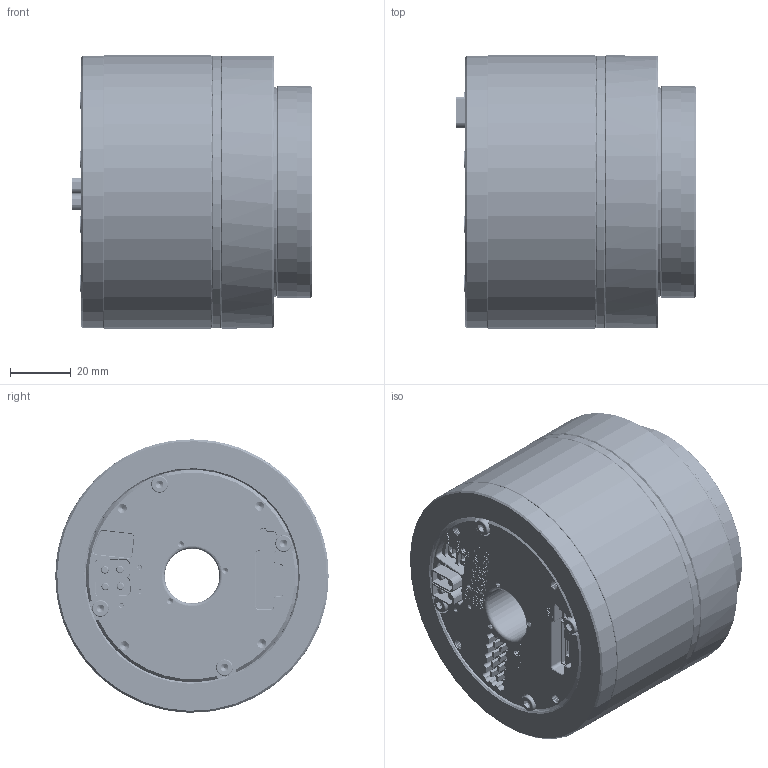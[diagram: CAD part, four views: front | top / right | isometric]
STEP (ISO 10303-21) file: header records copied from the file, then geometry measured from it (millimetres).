
FILE_DESCRIPTION (( 'STEP AP203' ), '1' );
FILE_NAME ('eRob90H｡ﾁ｡ﾁI-XX-18CX_V6_MC2E.DX.XX.STEP', '2024-12-12T12:22:29', ( 'Windows User' ), ( 'P R C' ), 'SwSTEP 2.0', 'SolidWorks 2021', '' );
FILE_SCHEMA (( 'CONFIG_CONTROL_DESIGN' ));
Length unit declared in the file: millimetre
Products named in the file (1): eRob90H××I-XX-18CX_V6_MC2E.DX.XX
Bounding box: 79 x 90 x 90 mm (x, y, z)
Volume: 425601.3 mm3; surface area: 51370.3 mm2
Topology: 1 solids, 1 shells, 3290 faces, 8579 edges, 5573 vertices
Faces by surface type: plane 2220, cylinder 463, bspline 424, cone 149, torus 34
Full cylindrical faces by diameter (mm): 1.5 x2, 1.6 x3, 2.1 x2, 2.5 x44, 3.4 x16, 3.5 x20, 4.5 x24, 5 x24, 5.5 x4, 18 x1, 69 x1, 69.6 x1, 70 x2, 78 x1, 89.8 x1, 90 x3
Entity records: 169219 total; most frequent: CARTESIAN_POINT 93360, ORIENTED_EDGE 16200, DIRECTION 13959, EDGE_CURVE 8100, LINE 5859, VECTOR 5859, VERTEX_POINT 5395, AXIS2_PLACEMENT_3D 4050
